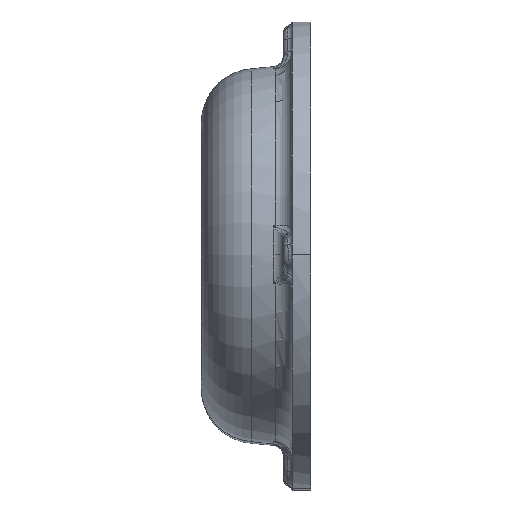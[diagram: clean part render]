
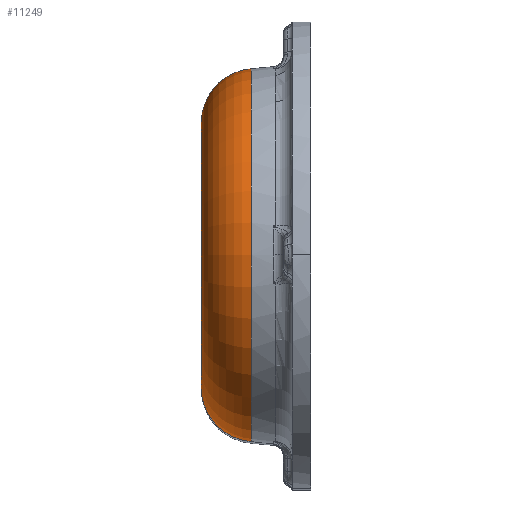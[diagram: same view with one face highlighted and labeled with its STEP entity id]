
A CAD part, top view. The second image highlights one B-rep face of the part: STEP entity #11249.
In plain terms, the highlighted toroidal (fillet/blend) face has major radius 36.255 mm and minor radius 15 mm.
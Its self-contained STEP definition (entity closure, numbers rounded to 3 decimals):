
#535 = CARTESIAN_POINT ( 'NONE',  ( 15., -36.255, 129. ) ) ;
#626 = DIRECTION ( 'NONE',  ( -1., 0., 0. ) ) ;
#817 = CARTESIAN_POINT ( 'NONE',  ( 13.693, 0., 129. ) ) ;
#1485 = AXIS2_PLACEMENT_3D ( 'NONE', #1681, #6189, #10684 ) ;
#1681 = CARTESIAN_POINT ( 'NONE',  ( 0., 0., 129. ) ) ;
#1747 = CIRCLE ( 'NONE', #10006, 51.198 ) ;
#2865 = CARTESIAN_POINT ( 'NONE',  ( 13.693, 51.198, 129. ) ) ;
#2921 = ORIENTED_EDGE ( 'NONE', *, *, #10094, .F. ) ;
#3416 = ORIENTED_EDGE ( 'NONE', *, *, #7323, .F. ) ;
#3438 = ORIENTED_EDGE ( 'NONE', *, *, #7864, .F. ) ;
#3462 = VERTEX_POINT ( 'NONE', #10851 ) ;
#3873 = CIRCLE ( 'NONE', #12100, 15. ) ;
#3919 = VERTEX_POINT ( 'NONE', #6176 ) ;
#4522 = CARTESIAN_POINT ( 'NONE',  ( 15., 0., 129. ) ) ;
#5030 = DIRECTION ( 'NONE',  ( 0., 0., -1. ) ) ;
#5070 = TOROIDAL_SURFACE ( 'NONE', #13306, 36.255, 15. ) ;
#5318 = DIRECTION ( 'NONE',  ( 1., 0., 0. ) ) ;
#5628 = FACE_OUTER_BOUND ( 'NONE', #13555, .T. ) ;
#6176 = CARTESIAN_POINT ( 'NONE',  ( 0., 36.255, 129. ) ) ;
#6189 = DIRECTION ( 'NONE',  ( -1., 0., 0. ) ) ;
#6234 = CARTESIAN_POINT ( 'NONE',  ( 15., 36.255, 129. ) ) ;
#7323 = EDGE_CURVE ( 'NONE', #9077, #3462, #3873, .T. ) ;
#7466 = CIRCLE ( 'NONE', #9351, 15. ) ;
#7841 = CIRCLE ( 'NONE', #1485, 36.255 ) ;
#7864 = EDGE_CURVE ( 'NONE', #3462, #3919, #7841, .T. ) ;
#9022 = DIRECTION ( 'NONE',  ( 1., 0., 0. ) ) ;
#9077 = VERTEX_POINT ( 'NONE', #11369 ) ;
#9351 = AXIS2_PLACEMENT_3D ( 'NONE', #6234, #10727, #626 ) ;
#9530 = DIRECTION ( 'NONE',  ( -1., 0., 0. ) ) ;
#9813 = DIRECTION ( 'NONE',  ( 0., 0., 1. ) ) ;
#10006 = AXIS2_PLACEMENT_3D ( 'NONE', #817, #5318, #9813 ) ;
#10094 = EDGE_CURVE ( 'NONE', #10445, #9077, #1747, .T. ) ;
#10445 = VERTEX_POINT ( 'NONE', #2865 ) ;
#10684 = DIRECTION ( 'NONE',  ( 0., 0., -1. ) ) ;
#10727 = DIRECTION ( 'NONE',  ( 0., 0., -1. ) ) ;
#10851 = CARTESIAN_POINT ( 'NONE',  ( 0., -36.255, 129. ) ) ;
#11249 = ADVANCED_FACE ( 'NONE', ( #5628 ), #5070, .T. ) ;
#11369 = CARTESIAN_POINT ( 'NONE',  ( 13.693, -51.198, 129. ) ) ;
#12100 = AXIS2_PLACEMENT_3D ( 'NONE', #535, #5030, #9530 ) ;
#13164 = EDGE_CURVE ( 'NONE', #3919, #10445, #7466, .T. ) ;
#13251 = ORIENTED_EDGE ( 'NONE', *, *, #13164, .F. ) ;
#13306 = AXIS2_PLACEMENT_3D ( 'NONE', #4522, #9022, #13516 ) ;
#13516 = DIRECTION ( 'NONE',  ( 0., 0., -1. ) ) ;
#13555 = EDGE_LOOP ( 'NONE', ( #3416, #2921, #13251, #3438 ) ) ;
